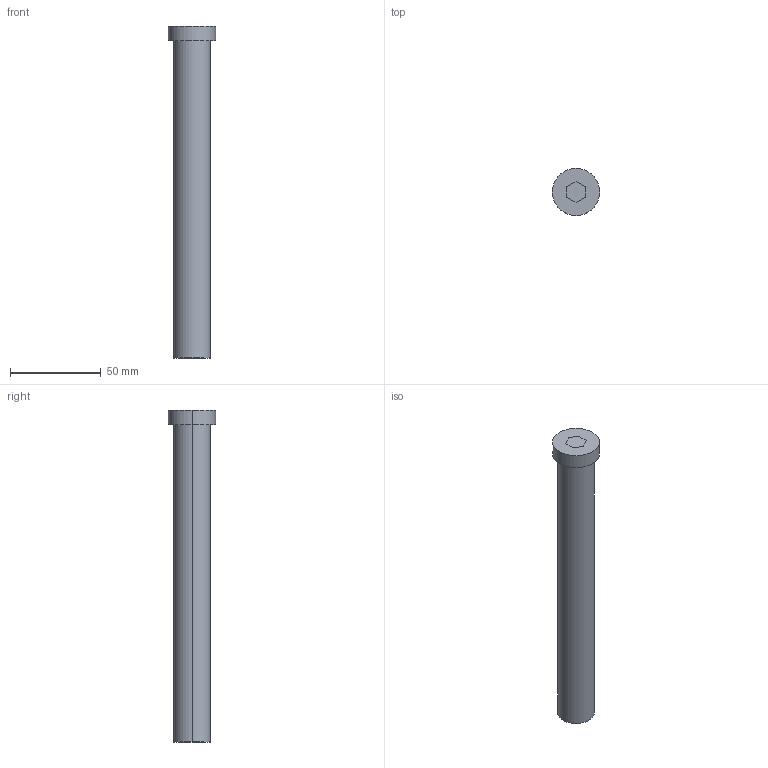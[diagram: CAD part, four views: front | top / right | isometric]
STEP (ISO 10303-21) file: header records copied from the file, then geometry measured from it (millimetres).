
FILE_DESCRIPTION (( 'STEP AP214' ), '1' );
FILE_NAME ('BruyRubio_TGH__20_x_175_-_M-14.STEP', '2019-12-22T23:40:15', ( '' ), ( '' ), 'SwSTEP 2.0', 'SolidWorks 2017', '' );
FILE_SCHEMA (( 'AUTOMOTIVE_DESIGN' ));
Length unit declared in the file: millimetre
Products named in the file (3): BruyRubio_TGH__20_x_175_-_M-14; Einbauraum_cd8a09; TGH_ 20 x 175 - M-14_060a48
Assembly tree (2 placements, depth 2):
  BruyRubio_TGH__20_x_175_-_M-14
    Einbauraum_cd8a09
    TGH_ 20 x 175 - M-14_060a48
Bounding box: 26 x 26 x 183 mm (x, y, z)
Volume: 114524.6 mm3; surface area: 28967 mm2
Topology: 3 solids, 3 shells, 34 faces, 70 edges, 45 vertices
Faces by surface type: cylinder 16, plane 16, cone 2
Entity records: 1393 total; most frequent: DIRECTION 178, CARTESIAN_POINT 152, ORIENTED_EDGE 136, AXIS2_PLACEMENT_3D 71, EDGE_CURVE 68, VERTEX_POINT 45, UNCERTAINTY_MEASURE_WITH_UNIT 42, EDGE_LOOP 41
